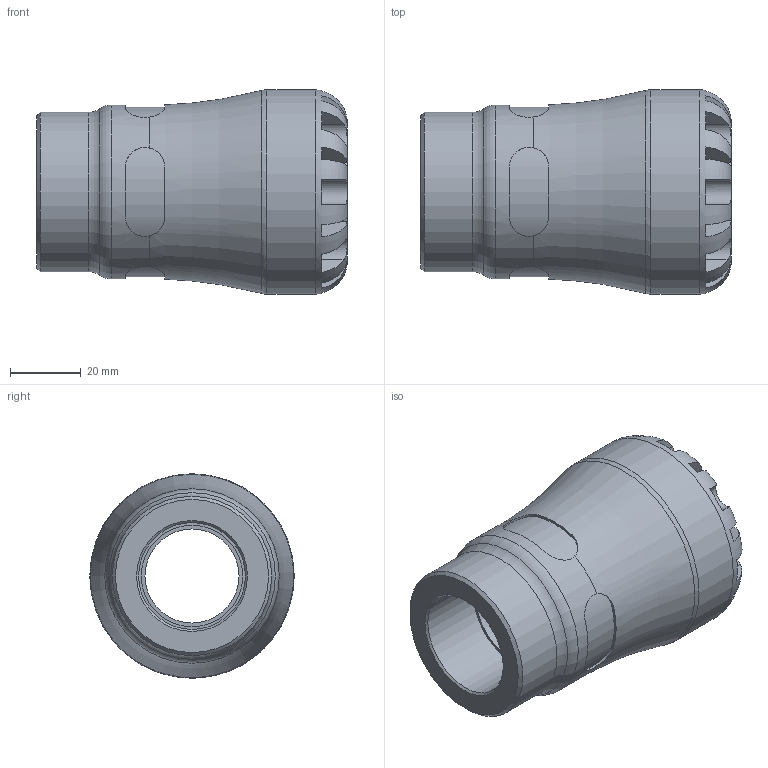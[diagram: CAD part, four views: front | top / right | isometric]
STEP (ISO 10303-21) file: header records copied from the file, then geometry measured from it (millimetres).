
FILE_DESCRIPTION(/* description */ ('PLASSON FEMALE INTEGRAL BRASS THREAD 32X1" SERIES 1'),/* implementation_level */ '2;1');
FILE_NAME(/* name */ 'C:\Dropbox\KIMPROJECTS-Inventor\99-16-3568-Processing\1073\107300032010_197300032010.ipt.stp',/* time_stamp */ '2017-01-22T11:35:30+02:00',/* author */ ('KIM'),/* organization */ (''),/* preprocessor_version */ 'ST-DEVELOPER v15.6',/* originating_system */ 'Autodesk Inventor 2015',/* authorisation */ '');
FILE_SCHEMA (('AUTOMOTIVE_DESIGN { 1 0 10303 214 3 1 1 }'));
Length unit declared in the file: millimetre
Products named in the file (1): 107300032010_197300032010
Bounding box: 88 x 58 x 58 mm (x, y, z)
Volume: 113671.2 mm3; surface area: 26991.1 mm2
Topology: 1 solids, 1 shells, 104 faces, 265 edges, 166 vertices
Faces by surface type: plane 61, cylinder 35, torus 5, cone 3
Full cylindrical faces by diameter (mm): 26.667 x1, 28.776 x1, 30.291 x1, 32 x1, 45.24 x1, 49.3 x1, 58 x1
Entity records: 3862 total; most frequent: CARTESIAN_POINT 1475, ORIENTED_EDGE 492, DIRECTION 478, EDGE_CURVE 246, AXIS2_PLACEMENT_3D 199, VERTEX_POINT 162, EDGE_LOOP 124, FACE_OUTER_BOUND 104
